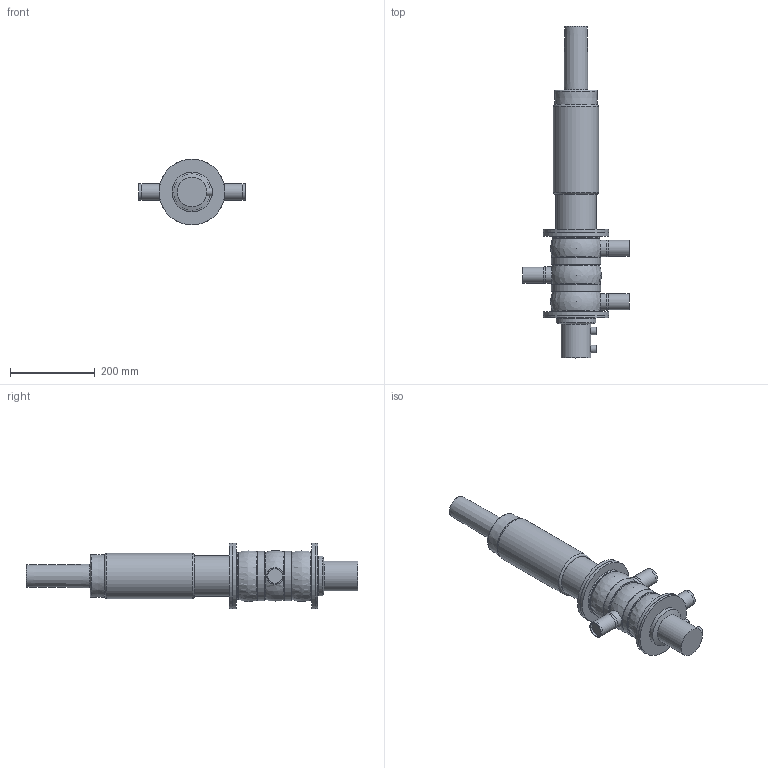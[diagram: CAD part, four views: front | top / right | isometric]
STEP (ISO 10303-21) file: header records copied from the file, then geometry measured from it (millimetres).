
FILE_DESCRIPTION(/* description */ ('Creo Elements/Direct Modeling STEP Export'),/* implementation_level */ '2;1');
FILE_NAME(/* name */ 'O:\Benutzer\Trimpop\DU4 SL\Makros\DU4 SL_VSM_stp\DU45(1-7-9)-1,5inch SL_VSM.stp',/* time_stamp */ '2021-10-01T14:07:28+02:00',/* author */ ('KERAMN'),/* organization */ (''),/* preprocessor_version */ 'ST-DEVELOPER v18.1',/* originating_system */ 'Autodesk Inventor 2020',/* authorisation */ '');
FILE_SCHEMA (('AUTOMOTIVE_DESIGN { 1 0 10303 214 3 1 1 }'));
Length unit declared in the file: millimetre
Products named in the file (6): DU45(1-7-9)-1,5inch SL_VSM; actuator_D4SL-100_yoke; DU45-1,5T(1-7-9)_Shrinkwrap_1; lid housing DU4-62 simplified; drain_pipe_62; D4_Prox._holder
Assembly tree (5 placements, depth 2):
  DU45(1-7-9)-1,5inch SL_VSM
    actuator_D4SL-100_yoke
    DU45-1,5T(1-7-9)_Shrinkwrap_1
    lid housing DU4-62 simplified
    drain_pipe_62
    D4_Prox._holder
Bounding box: 250 x 782.35 x 155 mm (x, y, z)
Volume: 6348815.2 mm3; surface area: 437914.9 mm2
Topology: 5 solids, 5 shells, 87 faces, 193 edges, 142 vertices
Faces by surface type: plane 38, cylinder 32, torus 7, cone 4, sphere 3, bspline 3
Full cylindrical faces by diameter (mm): 18 x2, 34.8 x3, 38.1 x3, 39.1 x3, 60 x1, 68 x1, 70 x1, 82.9 x1, 85 x1, 85.1 x1, 94 x1, 96 x1, 107 x1, 111.1 x3, 113.6 x3, 117 x2, 155 x4
Entity records: 2962 total; most frequent: CARTESIAN_POINT 670, DIRECTION 518, ORIENTED_EDGE 374, AXIS2_PLACEMENT_3D 240, EDGE_CURVE 187, CIRCLE 144, VERTEX_POINT 142, EDGE_LOOP 119
